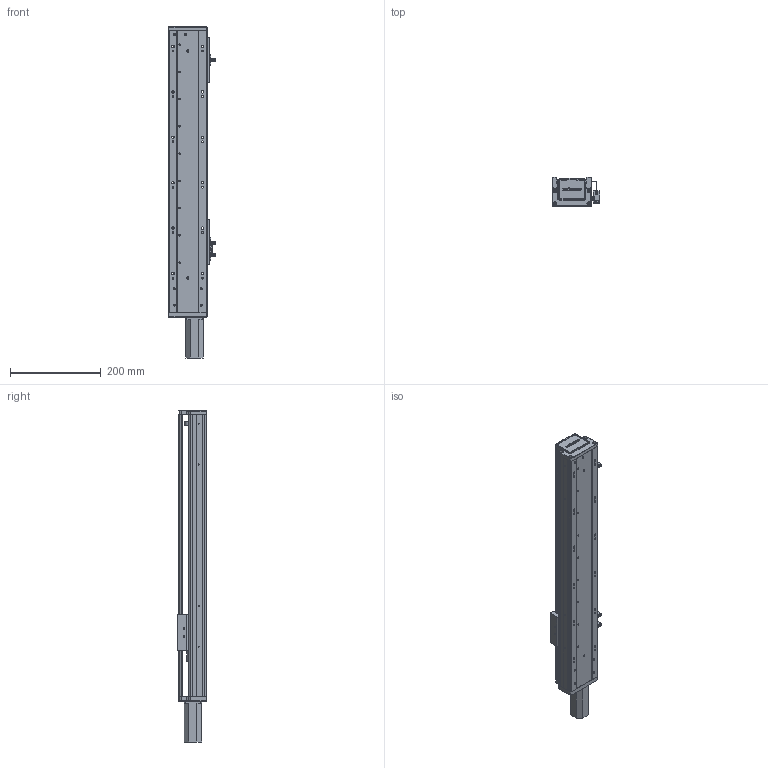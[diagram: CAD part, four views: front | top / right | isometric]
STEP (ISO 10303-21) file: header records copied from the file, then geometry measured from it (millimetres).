
FILE_DESCRIPTION (( 'STEP AP203' ), '1' );
FILE_NAME ('RY80-L1620-300-MK(100W).SLDASM_400.step', '2021-02-20T02:19:37', ( '' ), ( '' ), 'SwSTEP 2.0', 'SolidWorks 2012', '' );
FILE_SCHEMA (( 'CONFIG_CONTROL_DESIGN' ));
Length unit declared in the file: millimetre
Products named in the file (12): RY80-L1620-300-MK(100W).SLDASM_400; 滅袉蝶18-24; RY80俋离覜茼え; 侂狟100W; 覜茼ん672; 滅袉蝶18-10; RY80綴裔啣; 672嫖萇羲壽假蚾釱; RY80臏賑輸; RY80-300-MK倰第菁釱_400; RY80前盖板(100W电机)M3; RY80-300-MK倰第奻裔啣_400
Assembly tree (14 placements, depth 2):
  RY80-L1620-300-MK(100W).SLDASM_400
    RY80-300-MK倰第菁釱_400
    RY80臏賑輸
    RY80-300-MK倰第奻裔啣_400
    RY80前盖板(100W电机)M3
    RY80綴裔啣
    滅袉蝶18-10
    672嫖萇羲壽假蚾釱  x2
    覜茼ん672  x3
    RY80俋离覜茼え
    滅袉蝶18-24
    侂狟100W
Bounding box: 103.7 x 65 x 731 mm (x, y, z)
Volume: 1128356.9 mm3; surface area: 463252.9 mm2
Topology: 14 solids, 14 shells, 1551 faces, 4339 edges, 2833 vertices
Faces by surface type: plane 900, cylinder 545, cone 72, bspline 34
Entity records: 48252 total; most frequent: CARTESIAN_POINT 12619, ORIENTED_EDGE 7446, DIRECTION 6668, EDGE_CURVE 3723, VERTEX_POINT 2449, LINE 2328, VECTOR 2328, AXIS2_PLACEMENT_3D 2170
